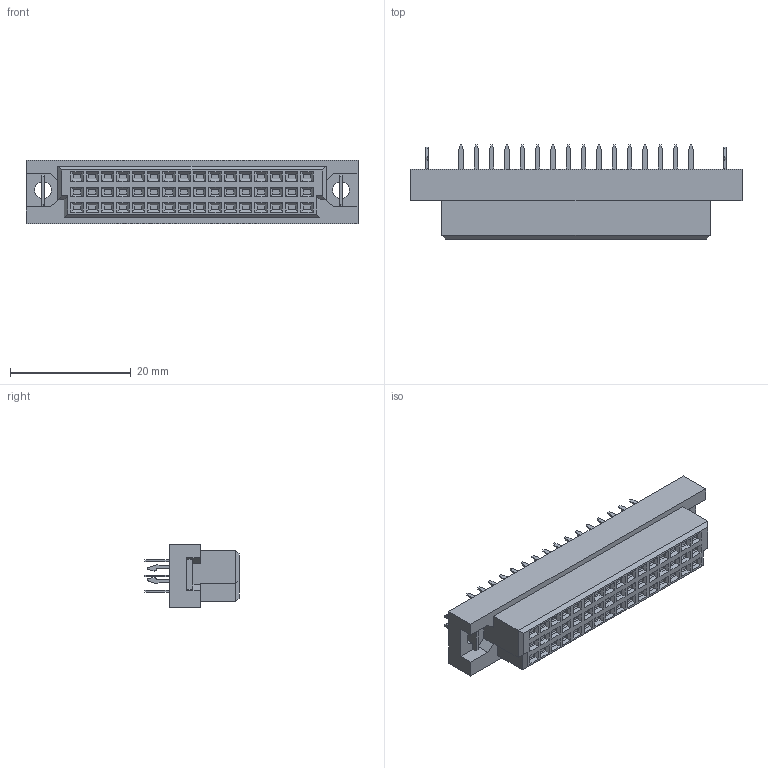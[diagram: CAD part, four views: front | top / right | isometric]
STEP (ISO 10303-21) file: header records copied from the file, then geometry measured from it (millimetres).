
FILE_DESCRIPTION (( 'STEP AP214' ), '1' );
FILE_NAME ('9001-C16481C00L1A.STEP', '2024-10-30T06:04:51', ( '' ), ( '' ), 'SwSTEP 2.0', 'SolidWorks 2011', '' );
FILE_SCHEMA (( 'AUTOMOTIVE_DESIGN' ));
Length unit declared in the file: millimetre
Products named in the file (1): 9001-C16481C00L1A
Bounding box: 55 x 15.6 x 10.5 mm (x, y, z)
Volume: 4942.2 mm3; surface area: 3982.3 mm2
Topology: 1 solids, 2 shells, 1570 faces, 4228 edges, 2756 vertices
Faces by surface type: plane 1233, cylinder 337
Entity records: 49168 total; most frequent: CARTESIAN_POINT 9602, ORIENTED_EDGE 8456, DIRECTION 7678, EDGE_CURVE 4228, VECTOR 3330, LINE 3330, VERTEX_POINT 2756, AXIS2_PLACEMENT_3D 2174
